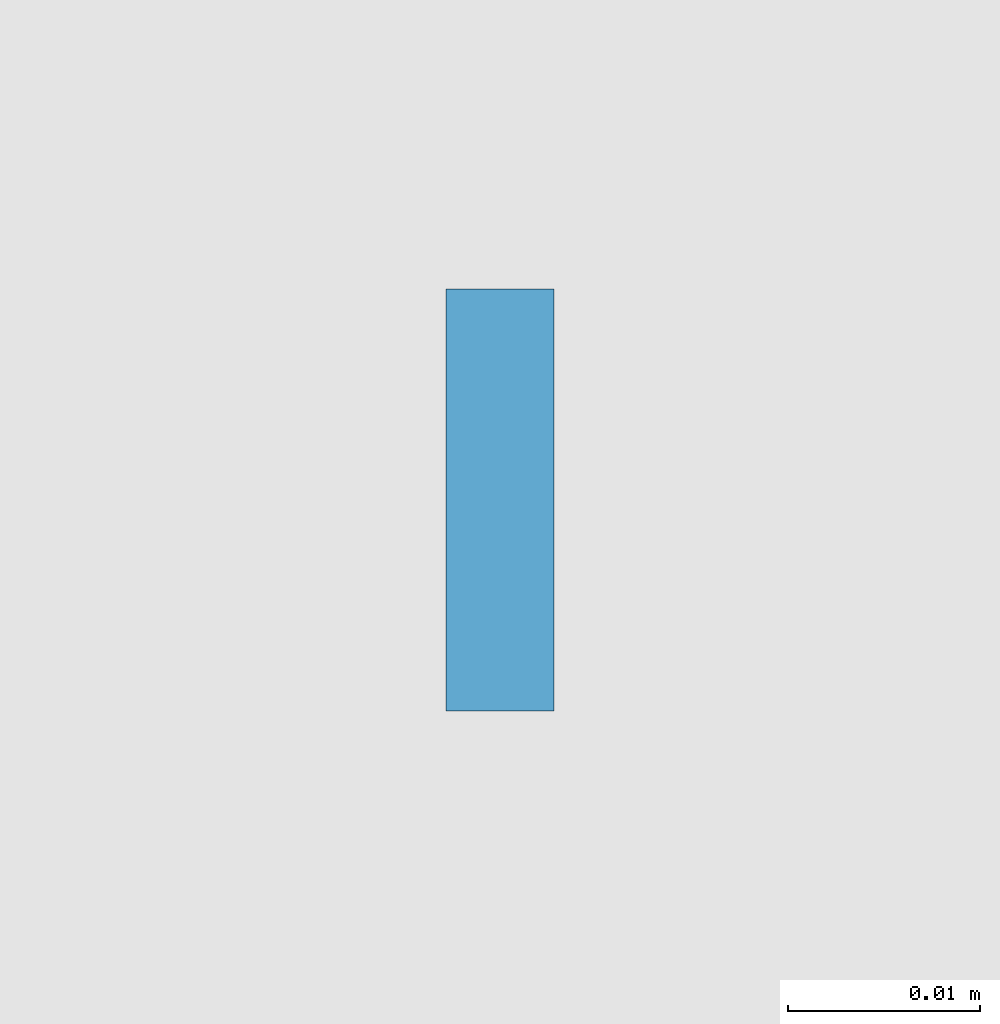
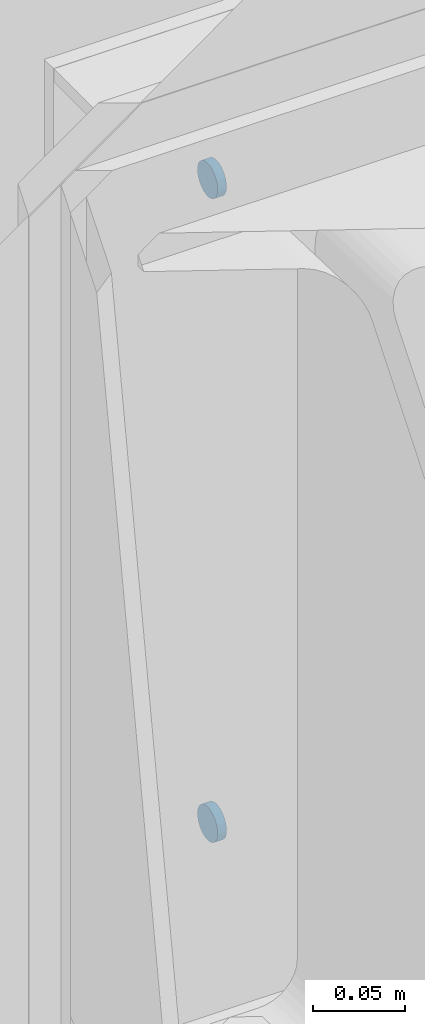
# One storey, part 107 of 123: 2 mechanical fasteners, 1 element without a shape of its own.
"""IFC2X3 building model written with IfcOpenShell, lengths in millimetres."""

from ifc_helpers import new_model, si_unit, frame, origin_with_axes, origin_2d_with_axis, place, context, subcontext, project, spatial, circle, extrude, source, transform, mapped, material, type_object, element, aggregate, save


model = new_model("IFC2X3")

# Units and contexts
model_context = context("Model", 3, precision=1e-05, world=origin_with_axes())
body_context = subcontext(model_context, "Body", "Model", "MODEL_VIEW")
ifc_project = project(units=[si_unit("LENGTHUNIT", "METRE", prefix="MILLI"), si_unit("AREAUNIT", "SQUARE_METRE"), si_unit("VOLUMEUNIT", "CUBIC_METRE"), si_unit("MASSUNIT", "GRAM", prefix="KILO"), si_unit("TIMEUNIT", "SECOND"), si_unit("PLANEANGLEUNIT", "RADIAN"), si_unit("SOLIDANGLEUNIT", "STERADIAN"), si_unit("THERMODYNAMICTEMPERATUREUNIT", "DEGREE_CELSIUS"), si_unit("LUMINOUSINTENSITYUNIT", "LUMEN")], contexts=[model_context])

# Site, building, storey
site_placement = place(None, origin_with_axes())
site = spatial("IfcSite", under=ifc_project, at=site_placement, Name="Undefined", CompositionType="ELEMENT")
building_placement = place(site_placement, origin_with_axes())
building = spatial("IfcBuilding", under=site, at=building_placement, Name="Undefined", CompositionType="ELEMENT")
storey_placement = place(building_placement, origin_with_axes())
storey = spatial("IfcBuildingStorey", under=building, at=storey_placement, Name="Undefined", CompositionType="ELEMENT", Elevation=0.0)

# Assembly, mechanical fasteners
assembly_placement = place(storey_placement, origin_with_axes())
assembly = element("IfcElementAssembly", 1, at=assembly_placement, inside=storey, Name="Steel Assembly", AssemblyPlace="NOTDEFINED", PredefinedType="RIGID_FRAME")
ifc_material = material(Name="6.8")
discrete_accessory_type = type_object("IfcDiscreteAccessoryType", Name="Bolt assembly")
shared_shape = source(origin_with_axes(), body_context, "Body", "SweptSolid", [
    extrude(circle(Radius=11.0, at=origin_2d_with_axis()), frame((0.0, -2.75000000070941, 0.0), z_axis=(0.0, 1.0, 0.0), x_axis=(1.0, 0.0, 0.0)), (0.0, 0.0, 1.0), 5.6),
])
mechanical_fastener_1_placement = place(assembly_placement, frame((19550.0000000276, 15452.0000000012, 7084.99732627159), z_axis=(0.0, 0.0, 1.0), x_axis=(0.0, -1.0, 0.0)))
mechanical_fastener_1 = element("IfcMechanicalFastener", 2, at=mechanical_fastener_1_placement, type_object=discrete_accessory_type, material=ifc_material, Name="Bolt assembly", NominalDiameter=20.0, NominalLength=5.5, context=body_context, shape_type="MappedRepresentation", body=[
    mapped(shared_shape, transform((0.0, 0.0, 0.0))),
])
mechanical_fastener_2_placement = place(assembly_placement, frame((19550.0000000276, 15452.0000000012, 7509.99732627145), z_axis=(0.0, 0.0, 1.0), x_axis=(0.0, -1.0, 0.0)))
mechanical_fastener_2 = element("IfcMechanicalFastener", 3, at=mechanical_fastener_2_placement, type_object=discrete_accessory_type, material=ifc_material, Name="Bolt assembly", NominalDiameter=20.0, NominalLength=5.5, context=body_context, shape_type="MappedRepresentation", body=[
    mapped(shared_shape, transform((0.0, 0.0, 0.0))),
])
aggregate(assembly, [mechanical_fastener_1, mechanical_fastener_2])

save(model, "model.ifc")
